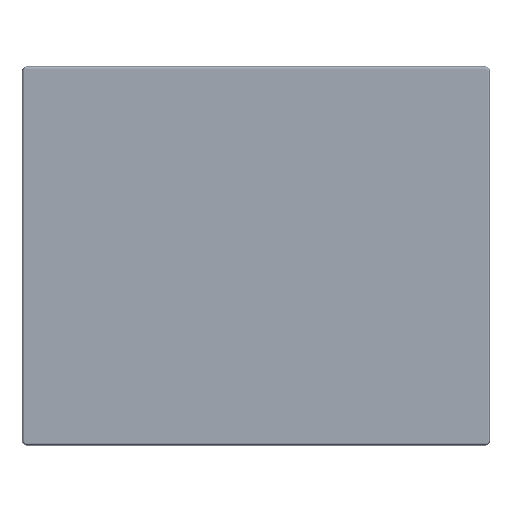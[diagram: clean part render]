
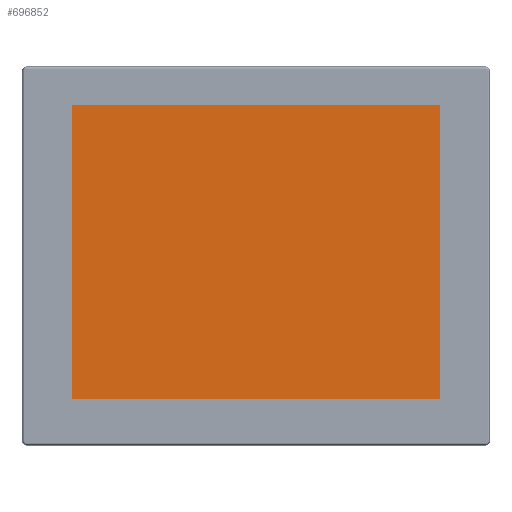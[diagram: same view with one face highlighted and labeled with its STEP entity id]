
A CAD part, top view. The second image highlights one B-rep face of the part: STEP entity #696852.
In plain terms, the highlighted planar face has unit normal (0, 0, 1).
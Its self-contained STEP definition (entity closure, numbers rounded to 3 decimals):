
#22589 = VERTEX_POINT ( 'NONE', #386909 ) ;
#24186 = DIRECTION ( 'NONE',  ( 0., -1., 0. ) ) ;
#28358 = DIRECTION ( 'NONE',  ( 0., 0., 1. ) ) ;
#29977 = ORIENTED_EDGE ( 'NONE', *, *, #536620, .T. ) ;
#80683 = LINE ( 'NONE', #743346, #578506 ) ;
#84355 = FACE_OUTER_BOUND ( 'NONE', #536599, .T. ) ;
#88282 = VERTEX_POINT ( 'NONE', #752976 ) ;
#91384 = EDGE_CURVE ( 'NONE', #22589, #376155, #371778, .T. ) ;
#123543 = VECTOR ( 'NONE', #490309, 1000. ) ;
#232472 = LINE ( 'NONE', #304071, #360479 ) ;
#280957 = ORIENTED_EDGE ( 'NONE', *, *, #461065, .T. ) ;
#304071 = CARTESIAN_POINT ( 'NONE',  ( -188.35, 154.7, 0.218 ) ) ;
#311956 = DIRECTION ( 'NONE',  ( -1., 0., 0. ) ) ;
#323614 = ORIENTED_EDGE ( 'NONE', *, *, #91384, .T. ) ;
#360479 = VECTOR ( 'NONE', #311956, 1000. ) ;
#371778 = LINE ( 'NONE', #679138, #785001 ) ;
#376155 = VERTEX_POINT ( 'NONE', #515161 ) ;
#385114 = EDGE_CURVE ( 'NONE', #88282, #767063, #80683, .T. ) ;
#386909 = CARTESIAN_POINT ( 'NONE',  ( -188.35, 154.7, 0.218 ) ) ;
#461065 = EDGE_CURVE ( 'NONE', #767063, #22589, #232472, .T. ) ;
#466366 = DIRECTION ( 'NONE',  ( 0., 1., 0. ) ) ;
#486366 = LINE ( 'NONE', #786012, #123543 ) ;
#490309 = DIRECTION ( 'NONE',  ( 1., 0., 0. ) ) ;
#507322 = CARTESIAN_POINT ( 'NONE',  ( 0., 0., 0.218 ) ) ;
#515161 = CARTESIAN_POINT ( 'NONE',  ( -188.35, -146.7, 0.218 ) ) ;
#536599 = EDGE_LOOP ( 'NONE', ( #323614, #29977, #603469, #280957 ) ) ;
#536620 = EDGE_CURVE ( 'NONE', #376155, #88282, #486366, .T. ) ;
#563333 = PLANE ( 'NONE',  #716999 ) ;
#571186 = DIRECTION ( 'NONE',  ( 1., 0., 0. ) ) ;
#578506 = VECTOR ( 'NONE', #466366, 1000. ) ;
#603469 = ORIENTED_EDGE ( 'NONE', *, *, #385114, .T. ) ;
#679138 = CARTESIAN_POINT ( 'NONE',  ( -188.35, 154.7, 0.218 ) ) ;
#696852 = ADVANCED_FACE ( 'NONE', ( #84355 ), #563333, .T. ) ;
#716999 = AXIS2_PLACEMENT_3D ( 'NONE', #507322, #28358, #571186 ) ;
#743346 = CARTESIAN_POINT ( 'NONE',  ( 188.35, 154.7, 0.218 ) ) ;
#752976 = CARTESIAN_POINT ( 'NONE',  ( 188.35, -146.7, 0.218 ) ) ;
#767063 = VERTEX_POINT ( 'NONE', #787326 ) ;
#785001 = VECTOR ( 'NONE', #24186, 1000. ) ;
#786012 = CARTESIAN_POINT ( 'NONE',  ( -188.35, -146.7, 0.218 ) ) ;
#787326 = CARTESIAN_POINT ( 'NONE',  ( 188.35, 154.7, 0.218 ) ) ;
